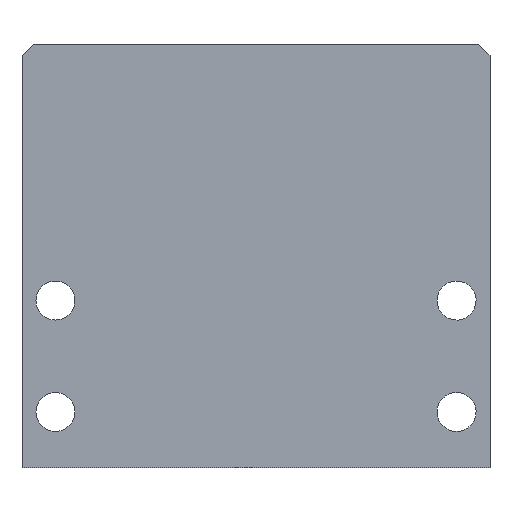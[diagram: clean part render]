
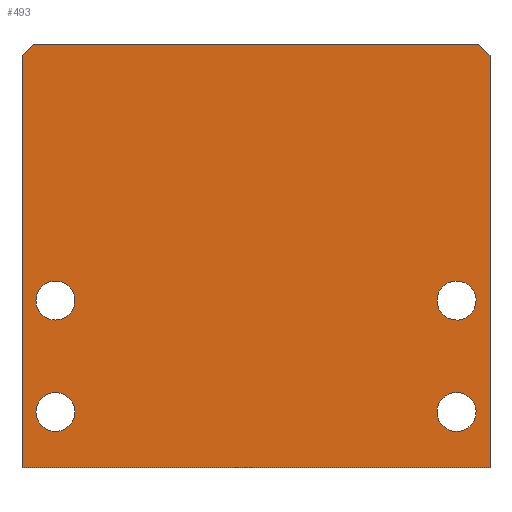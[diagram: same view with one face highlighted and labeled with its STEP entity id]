
A CAD part, left-side view. The second image highlights one B-rep face of the part: STEP entity #493.
In plain terms, the highlighted planar face has unit normal (-1, 0, 0).
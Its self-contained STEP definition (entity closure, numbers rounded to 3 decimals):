
#39=AXIS2_PLACEMENT_3D('Circle Axis2P3D',#37,#38,$) ;
#74=AXIS2_PLACEMENT_3D('Circle Axis2P3D',#72,#73,$) ;
#136=AXIS2_PLACEMENT_3D('Circle Axis2P3D',#134,#135,$) ;
#171=AXIS2_PLACEMENT_3D('Circle Axis2P3D',#169,#170,$) ;
#193=AXIS2_PLACEMENT_3D('Circle Axis2P3D',#191,#192,$) ;
#228=AXIS2_PLACEMENT_3D('Circle Axis2P3D',#226,#227,$) ;
#250=AXIS2_PLACEMENT_3D('Circle Axis2P3D',#248,#249,$) ;
#285=AXIS2_PLACEMENT_3D('Circle Axis2P3D',#283,#284,$) ;
#462=AXIS2_PLACEMENT_3D('Plane Axis2P3D',#459,#460,#461) ;
#37=CARTESIAN_POINT('Axis2P3D Location',(0.,3.,15.)) ;
#41=CARTESIAN_POINT('Vertex',(0.,1.256,15.143)) ;
#43=CARTESIAN_POINT('Vertex',(0.,4.744,14.857)) ;
#72=CARTESIAN_POINT('Axis2P3D Location',(0.,3.,15.)) ;
#98=CARTESIAN_POINT('Vertex',(0.,0.,0.)) ;
#103=CARTESIAN_POINT('Line Origine',(0.,21.,0.)) ;
#107=CARTESIAN_POINT('Vertex',(0.,42.,0.)) ;
#134=CARTESIAN_POINT('Axis2P3D Location',(0.,39.,5.)) ;
#138=CARTESIAN_POINT('Vertex',(0.,37.25,5.)) ;
#140=CARTESIAN_POINT('Vertex',(0.,40.75,5.)) ;
#169=CARTESIAN_POINT('Axis2P3D Location',(0.,39.,5.)) ;
#191=CARTESIAN_POINT('Axis2P3D Location',(0.,39.,15.)) ;
#195=CARTESIAN_POINT('Vertex',(0.,37.25,15.)) ;
#197=CARTESIAN_POINT('Vertex',(0.,40.75,15.)) ;
#226=CARTESIAN_POINT('Axis2P3D Location',(0.,39.,15.)) ;
#248=CARTESIAN_POINT('Axis2P3D Location',(0.,3.,5.)) ;
#252=CARTESIAN_POINT('Vertex',(0.,1.256,5.143)) ;
#254=CARTESIAN_POINT('Vertex',(0.,4.744,4.857)) ;
#283=CARTESIAN_POINT('Axis2P3D Location',(0.,3.,5.)) ;
#312=CARTESIAN_POINT('Line Origine',(0.,42.,18.5)) ;
#316=CARTESIAN_POINT('Vertex',(0.,42.,37.)) ;
#343=CARTESIAN_POINT('Line Origine',(0.,41.5,37.5)) ;
#347=CARTESIAN_POINT('Vertex',(0.,41.,38.)) ;
#367=CARTESIAN_POINT('Line Origine',(0.,0.,18.5)) ;
#371=CARTESIAN_POINT('Vertex',(0.,0.,37.)) ;
#440=CARTESIAN_POINT('Line Origine',(0.,21.,38.)) ;
#444=CARTESIAN_POINT('Vertex',(0.,1.,38.)) ;
#459=CARTESIAN_POINT('Axis2P3D Location',(0.,0.,0.)) ;
#464=CARTESIAN_POINT('Line Origine',(0.,0.5,37.5)) ;
#38=DIRECTION('Axis2P3D Direction',(1.,0.,0.)) ;
#73=DIRECTION('Axis2P3D Direction',(1.,0.,0.)) ;
#104=DIRECTION('Vector Direction',(0.,1.,0.)) ;
#135=DIRECTION('Axis2P3D Direction',(1.,0.,0.)) ;
#170=DIRECTION('Axis2P3D Direction',(1.,0.,0.)) ;
#192=DIRECTION('Axis2P3D Direction',(1.,0.,0.)) ;
#227=DIRECTION('Axis2P3D Direction',(1.,0.,0.)) ;
#249=DIRECTION('Axis2P3D Direction',(1.,0.,0.)) ;
#284=DIRECTION('Axis2P3D Direction',(1.,0.,0.)) ;
#313=DIRECTION('Vector Direction',(0.,0.,1.)) ;
#344=DIRECTION('Vector Direction',(0.,0.707,-0.707)) ;
#368=DIRECTION('Vector Direction',(0.,0.,-1.)) ;
#441=DIRECTION('Vector Direction',(0.,-1.,0.)) ;
#460=DIRECTION('Axis2P3D Direction',(1.,0.,0.)) ;
#461=DIRECTION('Axis2P3D XDirection',(0.,1.,0.)) ;
#465=DIRECTION('Vector Direction',(0.,0.707,0.707)) ;
#105=VECTOR('Line Direction',#104,1.) ;
#314=VECTOR('Line Direction',#313,1.) ;
#345=VECTOR('Line Direction',#344,1.) ;
#369=VECTOR('Line Direction',#368,1.) ;
#442=VECTOR('Line Direction',#441,1.) ;
#466=VECTOR('Line Direction',#465,1.) ;
#470=ORIENTED_EDGE('',*,*,#468,.F.) ;
#471=ORIENTED_EDGE('',*,*,#446,.F.) ;
#472=ORIENTED_EDGE('',*,*,#349,.F.) ;
#473=ORIENTED_EDGE('',*,*,#318,.F.) ;
#474=ORIENTED_EDGE('',*,*,#109,.F.) ;
#475=ORIENTED_EDGE('',*,*,#373,.F.) ;
#478=ORIENTED_EDGE('',*,*,#45,.T.) ;
#479=ORIENTED_EDGE('',*,*,#76,.T.) ;
#482=ORIENTED_EDGE('',*,*,#256,.T.) ;
#483=ORIENTED_EDGE('',*,*,#287,.T.) ;
#486=ORIENTED_EDGE('',*,*,#199,.T.) ;
#487=ORIENTED_EDGE('',*,*,#230,.T.) ;
#490=ORIENTED_EDGE('',*,*,#142,.T.) ;
#491=ORIENTED_EDGE('',*,*,#173,.T.) ;
#480=FACE_BOUND('',#477,.T.) ;
#484=FACE_BOUND('',#481,.T.) ;
#488=FACE_BOUND('',#485,.T.) ;
#492=FACE_BOUND('',#489,.T.) ;
#493=ADVANCED_FACE('\X2\96F64EF651E04F554F53\X0\',(#476,#480,#484,#488,#492),#463,.F.) ;
#40=CIRCLE('generated circle',#39,1.75) ;
#75=CIRCLE('generated circle',#74,1.75) ;
#137=CIRCLE('generated circle',#136,1.75) ;
#172=CIRCLE('generated circle',#171,1.75) ;
#194=CIRCLE('generated circle',#193,1.75) ;
#229=CIRCLE('generated circle',#228,1.75) ;
#251=CIRCLE('generated circle',#250,1.75) ;
#286=CIRCLE('generated circle',#285,1.75) ;
#45=EDGE_CURVE('',#42,#44,#40,.T.) ;
#76=EDGE_CURVE('',#44,#42,#75,.T.) ;
#109=EDGE_CURVE('',#99,#108,#106,.T.) ;
#142=EDGE_CURVE('',#139,#141,#137,.T.) ;
#173=EDGE_CURVE('',#141,#139,#172,.T.) ;
#199=EDGE_CURVE('',#196,#198,#194,.T.) ;
#230=EDGE_CURVE('',#198,#196,#229,.T.) ;
#256=EDGE_CURVE('',#253,#255,#251,.T.) ;
#287=EDGE_CURVE('',#255,#253,#286,.T.) ;
#318=EDGE_CURVE('',#108,#317,#315,.T.) ;
#349=EDGE_CURVE('',#317,#348,#346,.F.) ;
#373=EDGE_CURVE('',#372,#99,#370,.T.) ;
#446=EDGE_CURVE('',#348,#445,#443,.T.) ;
#468=EDGE_CURVE('',#445,#372,#467,.F.) ;
#469=EDGE_LOOP('',(#470,#471,#472,#473,#474,#475)) ;
#477=EDGE_LOOP('',(#478,#479)) ;
#481=EDGE_LOOP('',(#482,#483)) ;
#485=EDGE_LOOP('',(#486,#487)) ;
#489=EDGE_LOOP('',(#490,#491)) ;
#476=FACE_OUTER_BOUND('',#469,.T.) ;
#106=LINE('Line',#103,#105) ;
#315=LINE('Line',#312,#314) ;
#346=LINE('Line',#343,#345) ;
#370=LINE('Line',#367,#369) ;
#443=LINE('Line',#440,#442) ;
#467=LINE('Line',#464,#466) ;
#463=PLANE('',#462) ;
#42=VERTEX_POINT('',#41) ;
#44=VERTEX_POINT('',#43) ;
#99=VERTEX_POINT('',#98) ;
#108=VERTEX_POINT('',#107) ;
#139=VERTEX_POINT('',#138) ;
#141=VERTEX_POINT('',#140) ;
#196=VERTEX_POINT('',#195) ;
#198=VERTEX_POINT('',#197) ;
#253=VERTEX_POINT('',#252) ;
#255=VERTEX_POINT('',#254) ;
#317=VERTEX_POINT('',#316) ;
#348=VERTEX_POINT('',#347) ;
#372=VERTEX_POINT('',#371) ;
#445=VERTEX_POINT('',#444) ;
